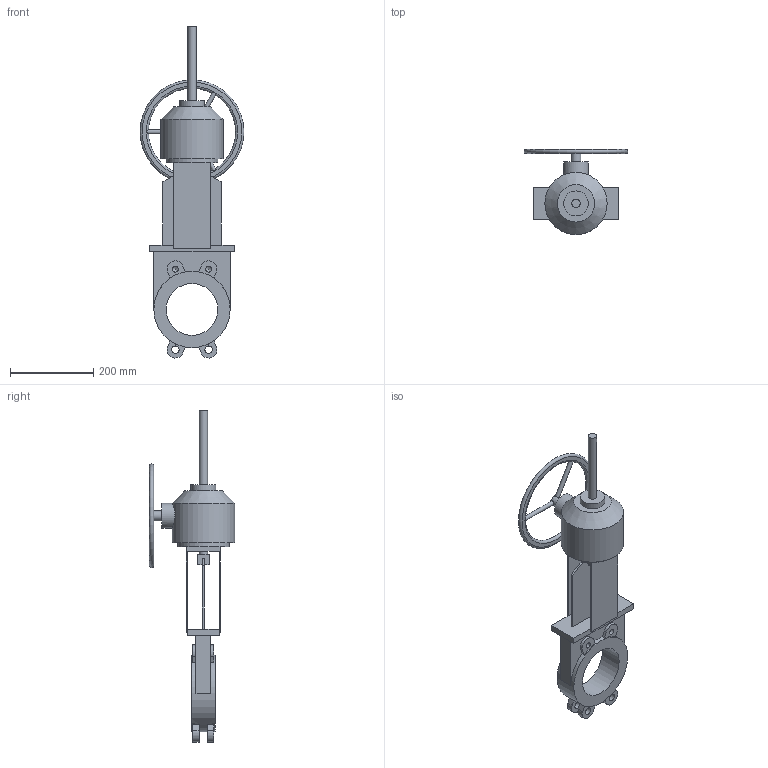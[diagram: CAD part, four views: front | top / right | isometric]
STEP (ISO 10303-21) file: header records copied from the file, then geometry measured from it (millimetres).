
FILE_DESCRIPTION(('STEP AP203'), '1');
FILE_NAME('Çàäâèæêà øèáåðíàÿ K21GV DN125 ðåäóêòîð+âûäâèæíîé øïèíäåëü', '', ('UNSPECIFIED'), ('UNSPECIFIED'), 'ASCON STEP Converter 1.6', 'ASCON Math Kernel', '');
FILE_SCHEMA(('CONFIG_CONTROL_DESIGN'));
Length unit declared in the file: millimetre
Bounding box: 250 x 205 x 799.99 mm (x, y, z)
Volume: 4383706.3 mm3; surface area: 439737.3 mm2
Topology: 1 solids, 1 shells, 110 faces, 286 edges, 183 vertices
Faces by surface type: plane 73, cylinder 28, cone 5, torus 4
Full cylindrical faces by diameter (mm): 10 x3, 13.835 x4, 18 x4, 20 x2, 24 x1, 60 x2, 125 x2, 150 x1, 184 x1
Entity records: 5482 total; most frequent: CARTESIAN_POINT 1921, DIRECTION 546, ORIENTED_EDGE 510, EDGE_CURVE 255, AXIS2_PLACEMENT_3D 193, VERTEX_POINT 179, EDGE_LOOP 162, LINE 160
